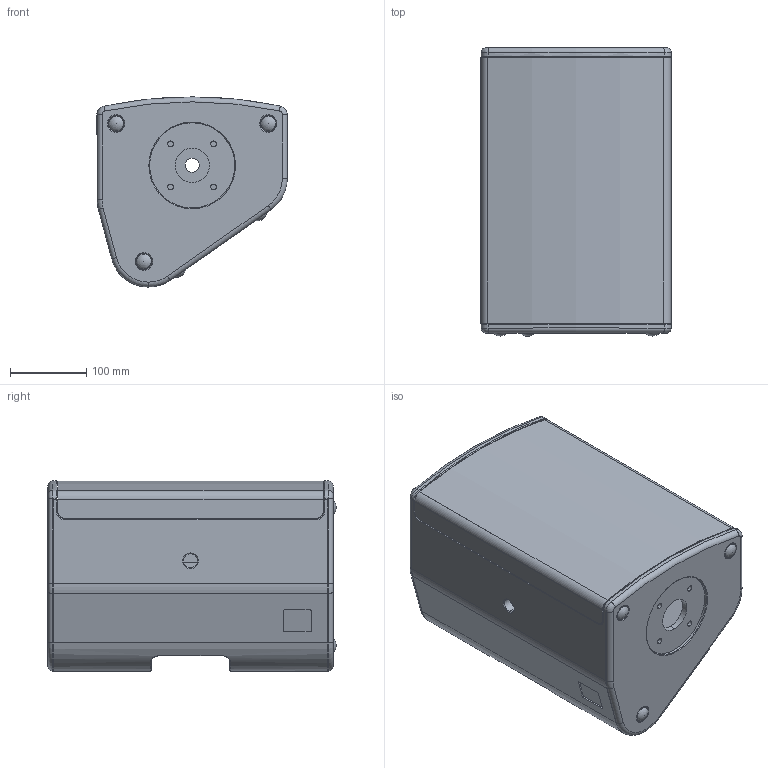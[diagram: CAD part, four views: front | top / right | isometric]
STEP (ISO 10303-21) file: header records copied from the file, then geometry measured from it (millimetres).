
FILE_DESCRIPTION (( 'STEP AP203' ), '1' );
FILE_NAME ('SEEBURG_X2.STEP', '2018-09-20T08:22:07', ( 'Michl' ), ( '' ), 'SwSTEP 2.0', 'SolidWorks 2009', '' );
FILE_SCHEMA (( 'CONFIG_CONTROL_DESIGN' ));
Length unit declared in the file: millimetre
Products named in the file (1): SEEBURG_X2
Bounding box: 250.5 x 379 x 250 mm (x, y, z)
Volume: 3521376.5 mm3; surface area: 931409.9 mm2
Topology: 14 solids, 14 shells, 426 faces, 1046 edges, 649 vertices
Faces by surface type: cylinder 166, plane 165, cone 43, torus 39, sphere 7, bspline 6
Entity records: 13264 total; most frequent: CARTESIAN_POINT 2901, DIRECTION 2284, ORIENTED_EDGE 2050, EDGE_CURVE 1025, AXIS2_PLACEMENT_3D 863, VERTEX_POINT 635, LINE 558, VECTOR 558
